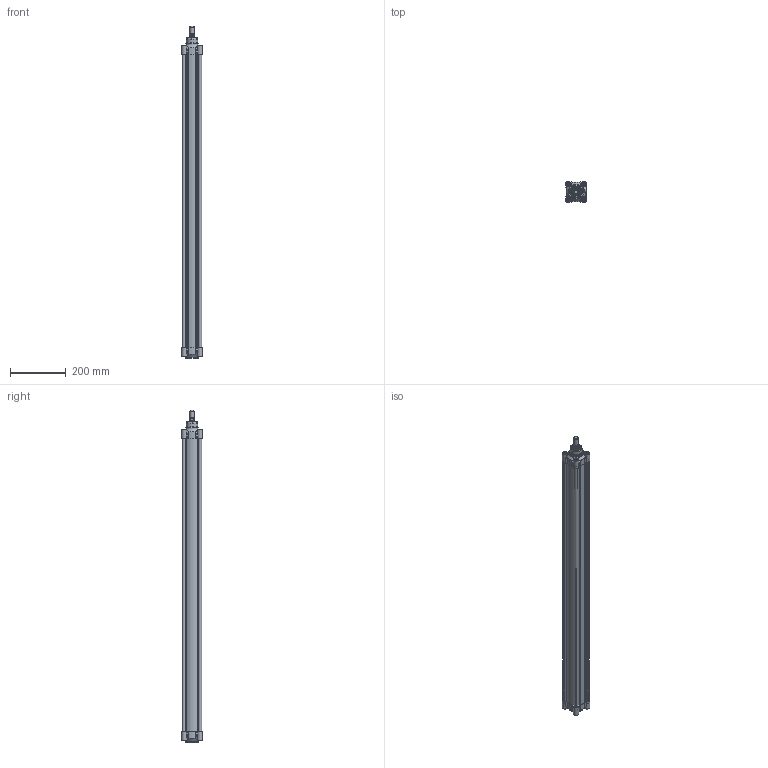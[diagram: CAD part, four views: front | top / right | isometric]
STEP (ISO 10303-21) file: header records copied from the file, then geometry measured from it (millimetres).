
FILE_DESCRIPTION(/* description */ ('CILINDRO D.E. MAGNETICO AMMORTIZZATO ISO 15552'),/* implementation_level */ '2;1');
FILE_NAME(/* name */ 'T:\Archivio Inventor\- 00 NUOVI STP PER SITO CON STELO CHE SI MUOVE\SERIE H - U\SERIE HDM\HDM063 - TUBO NUOVO\HDM063.1000.GS.M.stp',/* time_stamp */ '2018-07-30T15:09:37+02:00',/* author */ ('carlo.corazza'),/* organization */ (''),/* preprocessor_version */ 'ST-DEVELOPER v16.5',/* originating_system */ 'Autodesk Inventor 2017',/* authorisation */ '');
FILE_SCHEMA (('AUTOMOTIVE_DESIGN { 1 0 10303 214 3 1 1 }'));
Length unit declared in the file: millimetre
Products named in the file (5): HDM063.1000.GS.M; TP; TA; STELO-1000; CORPO-1000
Assembly tree (4 placements, depth 2):
  HDM063.1000.GS.M
    TP
    TA
    STELO-1000
    CORPO-1000
Bounding box: 75 x 75 x 1194 mm (x, y, z)
Volume: 1576158 mm3; surface area: 888421.9 mm2
Topology: 4 solids, 27 shells, 1241 faces, 2936 edges, 1818 vertices
Faces by surface type: plane 368, cylinder 297, bspline 288, torus 108, cone 106, sphere 74
Full cylindrical faces by diameter (mm): 3 x2, 3.4 x2, 4.8 x2, 5.25 x2, 6.647 x8, 8 x8, 8.3 x12, 9.8 x4, 9.9 x2, 10 x6, 12 x3, 13 x8, 13.3 x8, 13.5 x1, 14.95 x2, 16 x1, 19.5 x1, 20 x1, 20.8 x1, 20.847 x1, 24 x1, 26 x2, 30 x3, 42 x1, 45 x2, 63 x1
Entity records: 40768 total; most frequent: CARTESIAN_POINT 13071, ORIENTED_EDGE 5326, DIRECTION 5100, EDGE_CURVE 2663, AXIS2_PLACEMENT_3D 2037, VERTEX_POINT 1763, EDGE_LOOP 1576, STYLED_ITEM 1245
